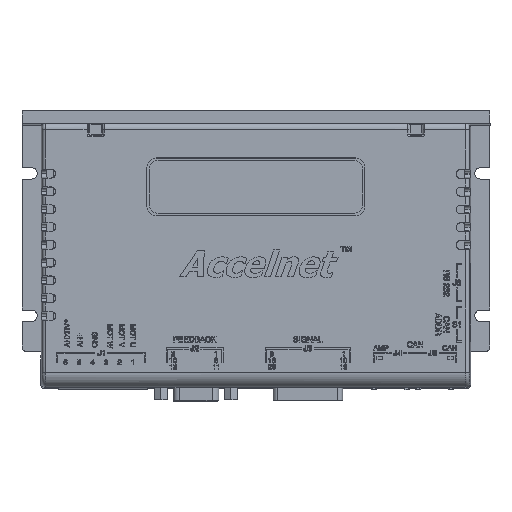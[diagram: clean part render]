
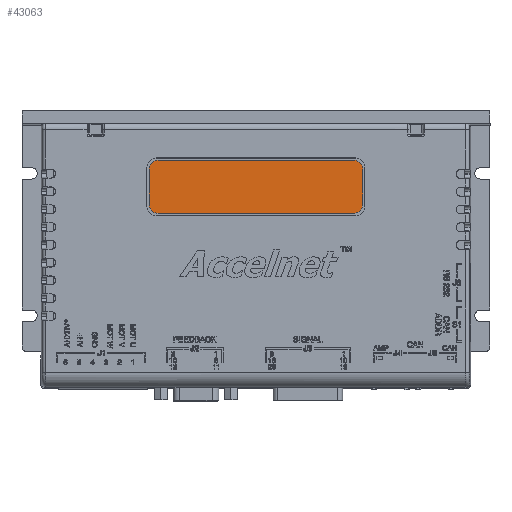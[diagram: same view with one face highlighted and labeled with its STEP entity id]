
A CAD part, top view. The second image highlights one B-rep face of the part: STEP entity #43063.
In plain terms, the highlighted planar face has unit normal (0, 0, 1).
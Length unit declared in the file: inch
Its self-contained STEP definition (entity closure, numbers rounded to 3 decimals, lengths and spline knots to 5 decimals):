
#1086 = DIRECTION ( 'NONE',  ( 1., 0., 0. ) ) ;
#8501 = ORIENTED_EDGE ( 'NONE', *, *, #107447, .T. ) ;
#8763 = ORIENTED_EDGE ( 'NONE', *, *, #122434, .T. ) ;
#10773 = FACE_OUTER_BOUND ( 'NONE', #147412, .T. ) ;
#13467 = ORIENTED_EDGE ( 'NONE', *, *, #148991, .T. ) ;
#14261 = ORIENTED_EDGE ( 'NONE', *, *, #19340, .T. ) ;
#14836 = CARTESIAN_POINT ( 'NONE',  ( -1.37, 0.375, 0.005 ) ) ;
#16790 = VECTOR ( 'NONE', #134150, 39.37008 ) ;
#19243 = CARTESIAN_POINT ( 'NONE',  ( -1.37, 0.245, 0.005 ) ) ;
#19340 = EDGE_CURVE ( 'NONE', #70612, #152447, #72774, .T. ) ;
#24415 = CARTESIAN_POINT ( 'NONE',  ( 1.5, -0.245, 0.005 ) ) ;
#26677 = DIRECTION ( 'NONE',  ( -1., 0., 0. ) ) ;
#31083 = DIRECTION ( 'NONE',  ( 1., 0., 0. ) ) ;
#39033 = LINE ( 'NONE', #76220, #125477 ) ;
#40147 = CARTESIAN_POINT ( 'NONE',  ( -1.37, -0.375, 0.005 ) ) ;
#40445 = CARTESIAN_POINT ( 'NONE',  ( 1.37, 0.245, 0.005 ) ) ;
#41490 = VECTOR ( 'NONE', #68864, 39.37008 ) ;
#42638 = VERTEX_POINT ( 'NONE', #76709 ) ;
#43063 = ADVANCED_FACE ( 'NONE', ( #10773 ), #106544, .T. ) ;
#47895 = CARTESIAN_POINT ( 'NONE',  ( -1.37, 0.245, 0.005 ) ) ;
#51024 = CIRCLE ( 'NONE', #105580, 0.13 ) ;
#51153 = CARTESIAN_POINT ( 'NONE',  ( 1.37, 0.375, 0.005 ) ) ;
#52298 = DIRECTION ( 'NONE',  ( -1., 0., 0. ) ) ;
#54095 = ORIENTED_EDGE ( 'NONE', *, *, #139779, .T. ) ;
#55650 = EDGE_CURVE ( 'NONE', #130666, #141354, #39033, .T. ) ;
#60009 = DIRECTION ( 'NONE',  ( 0., 0., 1. ) ) ;
#65395 = CARTESIAN_POINT ( 'NONE',  ( -1.37, -0.245, 0.005 ) ) ;
#66937 = AXIS2_PLACEMENT_3D ( 'NONE', #47895, #71588, #1086 ) ;
#68864 = DIRECTION ( 'NONE',  ( 0., 1., 0. ) ) ;
#70612 = VERTEX_POINT ( 'NONE', #24415 ) ;
#71588 = DIRECTION ( 'NONE',  ( 0., 0., 1. ) ) ;
#72774 = LINE ( 'NONE', #103802, #41490 ) ;
#74079 = CIRCLE ( 'NONE', #92731, 0.13 ) ;
#76220 = CARTESIAN_POINT ( 'NONE',  ( -1.5, 0.245, 0.005 ) ) ;
#76709 = CARTESIAN_POINT ( 'NONE',  ( -1.37, -0.375, 0.005 ) ) ;
#77206 = DIRECTION ( 'NONE',  ( 1., 0., 0. ) ) ;
#77605 = ORIENTED_EDGE ( 'NONE', *, *, #122818, .T. ) ;
#82320 = VECTOR ( 'NONE', #26677, 39.37008 ) ;
#88951 = CIRCLE ( 'NONE', #91677, 0.13 ) ;
#89076 = VERTEX_POINT ( 'NONE', #134955 ) ;
#91677 = AXIS2_PLACEMENT_3D ( 'NONE', #40445, #122666, #52298 ) ;
#92731 = AXIS2_PLACEMENT_3D ( 'NONE', #130396, #60009, #142225 ) ;
#96911 = CIRCLE ( 'NONE', #126233, 0.13 ) ;
#101132 = CARTESIAN_POINT ( 'NONE',  ( 1.5, 0.245, 0.005 ) ) ;
#101521 = DIRECTION ( 'NONE',  ( 0., 0., 1. ) ) ;
#103802 = CARTESIAN_POINT ( 'NONE',  ( 1.5, 0.245, 0.005 ) ) ;
#105580 = AXIS2_PLACEMENT_3D ( 'NONE', #19243, #101521, #31083 ) ;
#106544 = PLANE ( 'NONE',  #66937 ) ;
#107447 = EDGE_CURVE ( 'NONE', #89076, #70612, #74079, .T. ) ;
#110634 = LINE ( 'NONE', #40147, #16790 ) ;
#112010 = CARTESIAN_POINT ( 'NONE',  ( -1.37, 0.375, 0.005 ) ) ;
#122434 = EDGE_CURVE ( 'NONE', #130236, #130666, #51024, .T. ) ;
#122666 = DIRECTION ( 'NONE',  ( 0., 0., 1. ) ) ;
#122818 = EDGE_CURVE ( 'NONE', #141354, #42638, #96911, .T. ) ;
#125477 = VECTOR ( 'NONE', #134725, 39.37008 ) ;
#126233 = AXIS2_PLACEMENT_3D ( 'NONE', #65395, #147528, #77206 ) ;
#130236 = VERTEX_POINT ( 'NONE', #112010 ) ;
#130396 = CARTESIAN_POINT ( 'NONE',  ( 1.37, -0.245, 0.005 ) ) ;
#130666 = VERTEX_POINT ( 'NONE', #145867 ) ;
#132753 = VERTEX_POINT ( 'NONE', #51153 ) ;
#134150 = DIRECTION ( 'NONE',  ( 1., 0., 0. ) ) ;
#134725 = DIRECTION ( 'NONE',  ( 0., -1., 0. ) ) ;
#134955 = CARTESIAN_POINT ( 'NONE',  ( 1.37, -0.375, 0.005 ) ) ;
#137019 = ORIENTED_EDGE ( 'NONE', *, *, #150491, .T. ) ;
#139779 = EDGE_CURVE ( 'NONE', #132753, #130236, #141101, .T. ) ;
#140797 = ORIENTED_EDGE ( 'NONE', *, *, #55650, .T. ) ;
#141101 = LINE ( 'NONE', #14836, #82320 ) ;
#141354 = VERTEX_POINT ( 'NONE', #141802 ) ;
#141802 = CARTESIAN_POINT ( 'NONE',  ( -1.5, -0.245, 0.005 ) ) ;
#142225 = DIRECTION ( 'NONE',  ( 1., 0., 0. ) ) ;
#145867 = CARTESIAN_POINT ( 'NONE',  ( -1.5, 0.245, 0.005 ) ) ;
#147412 = EDGE_LOOP ( 'NONE', ( #8763, #140797, #77605, #137019, #8501, #14261, #13467, #54095 ) ) ;
#147528 = DIRECTION ( 'NONE',  ( 0., 0., 1. ) ) ;
#148991 = EDGE_CURVE ( 'NONE', #152447, #132753, #88951, .T. ) ;
#150491 = EDGE_CURVE ( 'NONE', #42638, #89076, #110634, .T. ) ;
#152447 = VERTEX_POINT ( 'NONE', #101132 ) ;
